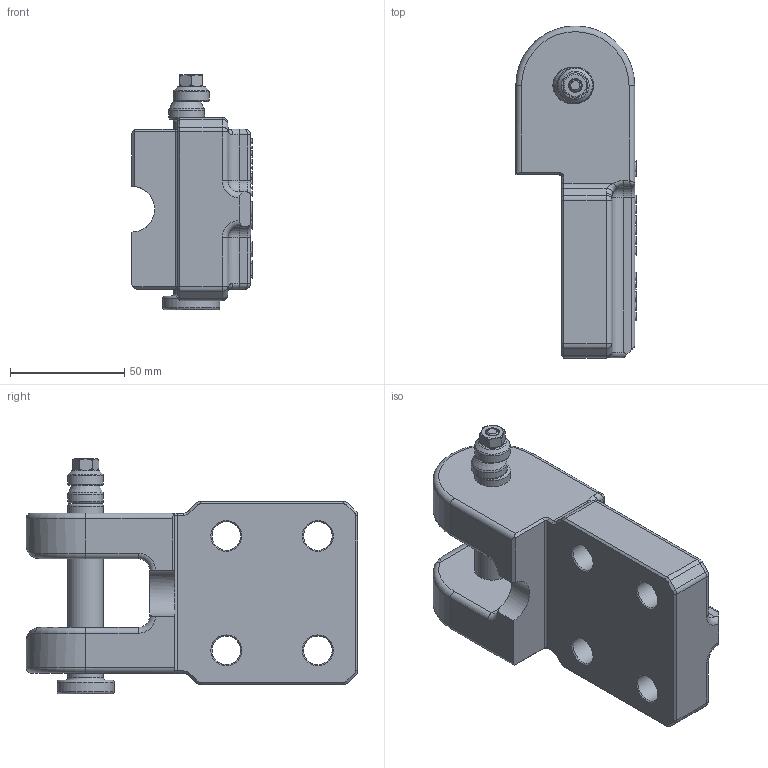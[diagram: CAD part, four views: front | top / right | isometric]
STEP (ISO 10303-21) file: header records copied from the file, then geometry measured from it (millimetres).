
FILE_DESCRIPTION(/* description */ (''),/* implementation_level */ '2;1');
FILE_NAME(/* name */ '2133.12.016.stp',/* time_stamp */ '2025-04-02T14:13:08+08:00',/* author */ (''),/* organization */ (''),/* preprocessor_version */ 'ST-DEVELOPER v16',/* originating_system */ 'SIEMENS PLM Software NX 10.0',/* authorisation */ '');
FILE_SCHEMA (('AP203_CONFIGURATION_CONTROLLED_3D_DESIGN_OF_MECHANICAL_PARTS_AND_ASSEMBLIES_MIM_LF { 1 0 10303 403 2 1 2}'));
Length unit declared in the file: millimetre
Products named in the file (1): Admi177C9AD32ika
Bounding box: 52.64 x 145 x 103 mm (x, y, z)
Volume: 293733 mm3; surface area: 50594.9 mm2
Topology: 5 solids, 5 shells, 899 faces, 2363 edges, 1538 vertices
Faces by surface type: extrusion 387, plane 331, cylinder 97, torus 31, cone 28, bspline 23, sphere 2
Full cylindrical faces by diameter (mm): 6.1 x1, 10 x1, 12.5 x4, 15.6 x3, 16 x2, 25 x1
Entity records: 38514 total; most frequent: CARTESIAN_POINT 18437, ORIENTED_EDGE 4582, DIRECTION 2912, EDGE_CURVE 2291, VERTEX_POINT 1517, VECTOR 1406, B_SPLINE_CURVE_WITH_KNOTS 1394, EDGE_LOOP 1028
